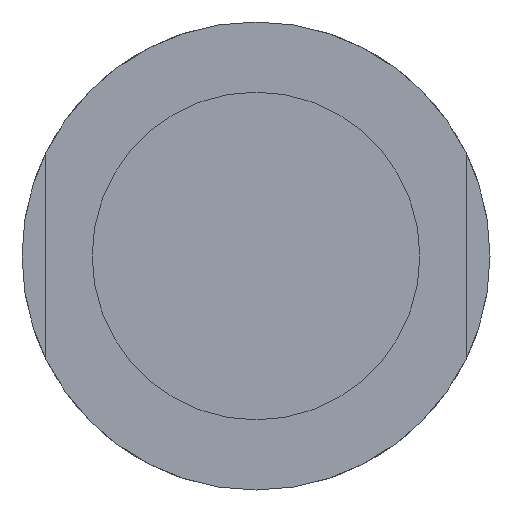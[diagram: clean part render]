
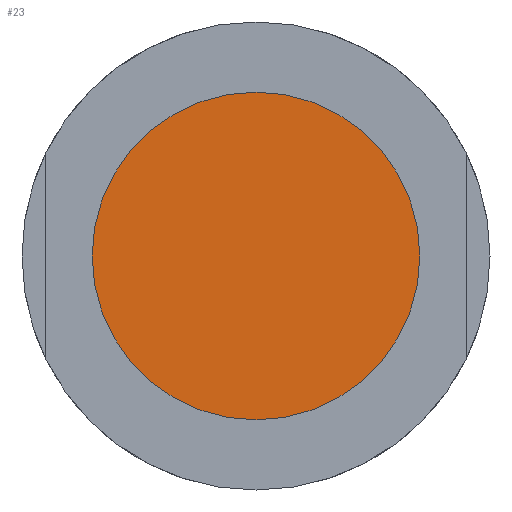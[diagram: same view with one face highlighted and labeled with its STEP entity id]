
A CAD part, left-side view. The second image highlights one B-rep face of the part: STEP entity #23.
In plain terms, the highlighted planar face has unit normal (-1, 0, 0).
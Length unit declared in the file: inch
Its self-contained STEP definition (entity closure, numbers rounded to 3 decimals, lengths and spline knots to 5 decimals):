
#23 = ADVANCED_FACE ( 'NONE', ( #876 ), #1329, .F. ) ;
#70 = EDGE_LOOP ( 'NONE', ( #1352, #1333 ) ) ;
#108 = VERTEX_POINT ( 'NONE', #1113 ) ;
#139 = VERTEX_POINT ( 'NONE', #275 ) ;
#221 = DIRECTION ( 'NONE',  ( 1., 0., 0. ) ) ;
#275 = CARTESIAN_POINT ( 'NONE',  ( -18.39415, -2.35561, -0.4377 ) ) ;
#601 = EDGE_CURVE ( 'NONE', #108, #139, #1476, .T. ) ;
#645 = AXIS2_PLACEMENT_3D ( 'NONE', #972, #973, #974 ) ;
#655 = AXIS2_PLACEMENT_3D ( 'NONE', #918, #919, #920 ) ;
#732 = EDGE_CURVE ( 'NONE', #139, #108, #1025, .T. ) ;
#743 = AXIS2_PLACEMENT_3D ( 'NONE', #911, #221, #1124 ) ;
#876 = FACE_OUTER_BOUND ( 'NONE', #70, .T. ) ;
#911 = CARTESIAN_POINT ( 'NONE',  ( -18.39415, -1.91791, 0. ) ) ;
#918 = CARTESIAN_POINT ( 'NONE',  ( -18.39415, -2.35561, 0. ) ) ;
#919 = DIRECTION ( 'NONE',  ( -1., 0., 0. ) ) ;
#920 = DIRECTION ( 'NONE',  ( 0., 0., 1. ) ) ;
#972 = CARTESIAN_POINT ( 'NONE',  ( -18.39415, -2.35561, 0. ) ) ;
#973 = DIRECTION ( 'NONE',  ( -1., 0., 0. ) ) ;
#974 = DIRECTION ( 'NONE',  ( 0., 0., 1. ) ) ;
#1025 = CIRCLE ( 'NONE', #645, 0.4377 ) ;
#1113 = CARTESIAN_POINT ( 'NONE',  ( -18.39415, -2.35561, 0.4377 ) ) ;
#1124 = DIRECTION ( 'NONE',  ( 0., 0., -1. ) ) ;
#1329 = PLANE ( 'NONE',  #743 ) ;
#1333 = ORIENTED_EDGE ( 'NONE', *, *, #732, .T. ) ;
#1352 = ORIENTED_EDGE ( 'NONE', *, *, #601, .T. ) ;
#1476 = CIRCLE ( 'NONE', #655, 0.4377 ) ;
